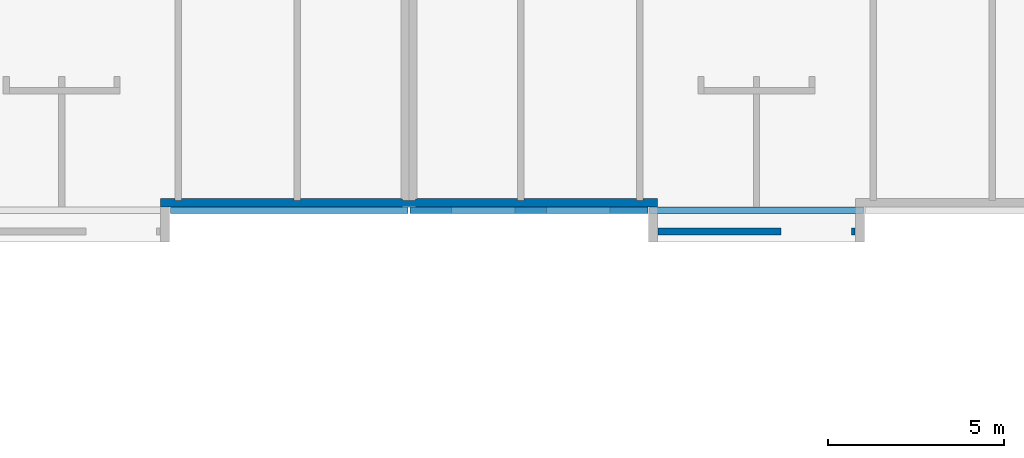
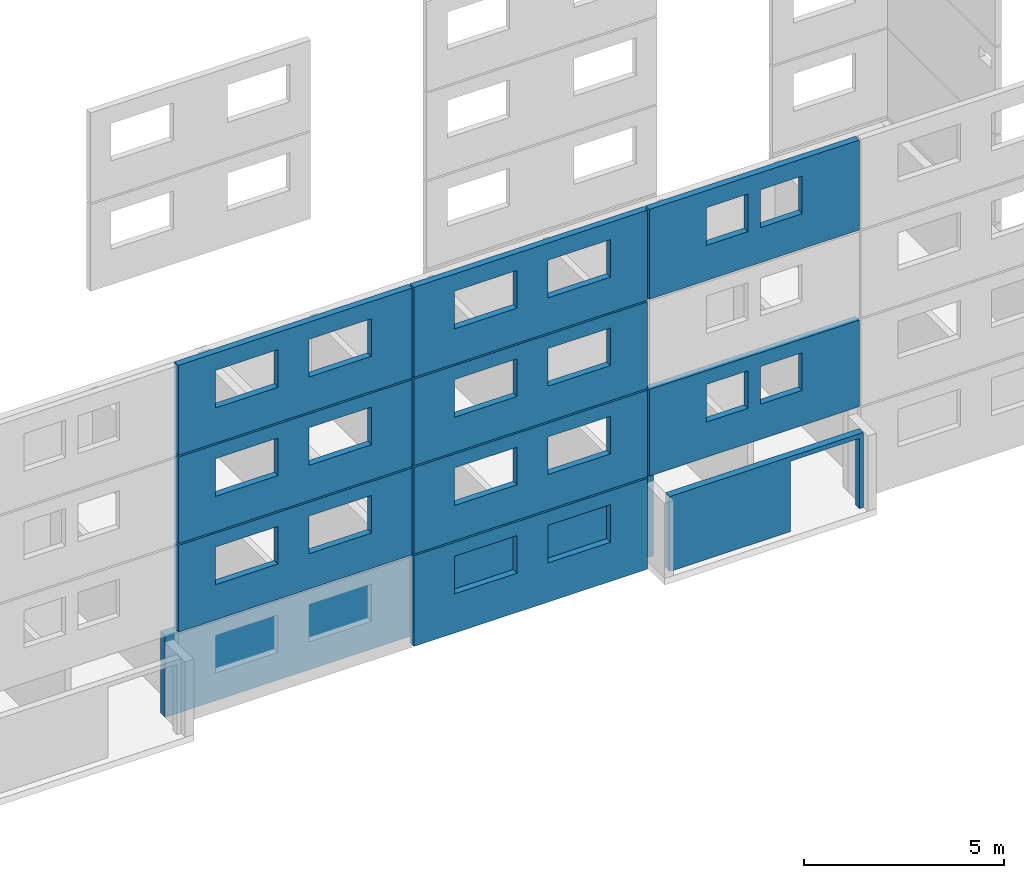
# One storey, part 9 of 15: 11 walls, 19 openings.
"""IFC2X3 building model written with IfcOpenShell, lengths in metres."""

from ifc_helpers import new_model, si_unit, frame, origin, place, context, project, spatial, faceted_brep, element, save


model = new_model("IFC2X3")

# Units and contexts
model_context = context("Model", 3, precision=1e-06, world=origin())
ifc_project = project(units=[si_unit("LENGTHUNIT", "METRE"), si_unit("PLANEANGLEUNIT", "RADIAN")], contexts=[model_context])

# Site, building, storey
site = spatial("IfcSite", under=ifc_project, CompositionType="ELEMENT")
building = spatial("IfcBuilding", under=site, CompositionType="ELEMENT")
storey = spatial("IfcBuildingStorey", under=building, Name="rdc", CompositionType="ELEMENT", Elevation=0.0)

# Wall
placement = place(None, origin())
wall_1_placement = place(placement, frame((12.795000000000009, 0.02016279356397, 0.0), z_axis=(0.0, 0.0, 1.0), x_axis=(1.0, 0.0, 0.0)))
element("IfcWall", 1, at=wall_1_placement, inside=storey, context=model_context, shape_type="Brep", body=[
    faceted_brep([(10.13499999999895, 0.179914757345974, 2.5), (10.314999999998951, 0.179914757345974, 2.5), (10.314999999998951, 0.179914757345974, 0.0), (10.13499999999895, 0.179914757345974, 0.0), (10.314999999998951, 0.179914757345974, 2.5), (10.314999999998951, 0.23, 2.5), (10.314999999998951, 0.23, 0.0), (10.314999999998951, 0.179914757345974, 0.0), (10.314999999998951, 0.23, 2.5), (13.5150000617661, 0.23, 2.5), (13.5150000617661, 0.23, 0.0), (10.314999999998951, 0.23, 0.0), (13.5150000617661, 0.23, 2.5), (13.5150000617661, 0.179914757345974, 2.5), (13.5150000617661, 0.179914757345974, 0.0), (13.5150000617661, 0.23, 0.0), (13.5150000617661, 0.179914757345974, 2.5), (13.695000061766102, 0.179914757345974, 2.5), (13.695000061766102, 0.179914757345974, 0.0), (13.5150000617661, 0.179914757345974, 0.0), (13.695000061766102, 0.179914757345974, 2.5), (13.695000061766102, 0.23, 2.5), (13.695000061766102, 0.23, 0.0), (13.695000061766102, 0.179914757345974, 0.0), (13.695000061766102, 0.23, 2.5), (14.110000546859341, 0.23, 2.5), (14.110000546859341, 0.23, 0.0), (13.695000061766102, 0.23, 0.0), (14.110000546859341, 0.23, 2.5), (14.110000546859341, 0.0, 2.5), (14.110000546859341, 0.0, 0.0), (14.110000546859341, 0.23, 0.0), (14.110000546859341, 0.0, 2.5), (0.0, 0.0, 2.5), (0.0, 0.0, 0.0), (14.110000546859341, 0.0, 0.0), (0.0, 0.0, 2.5), (0.0, 0.23, 2.5), (0.0, 0.23, 0.0), (0.0, 0.0, 0.0), (0.0, 0.23, 2.5), (0.4149999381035, 0.23, 2.5), (0.4149999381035, 0.23, 0.0), (0.0, 0.23, 0.0), (0.4149999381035, 0.23, 2.5), (0.4149999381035, 0.179914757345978, 2.5), (0.4149999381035, 0.179914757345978, 0.0), (0.4149999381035, 0.23, 0.0), (0.4149999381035, 0.179914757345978, 2.5), (0.594999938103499, 0.179914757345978, 2.5), (0.594999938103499, 0.179914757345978, 0.0), (0.4149999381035, 0.179914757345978, 0.0), (0.594999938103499, 0.179914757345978, 2.5), (0.594999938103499, 0.23, 2.5), (0.594999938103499, 0.23, 0.0), (0.594999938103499, 0.179914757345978, 0.0), (0.594999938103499, 0.23, 2.5), (3.795000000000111, 0.23, 2.5), (3.795000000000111, 0.23, 0.0), (0.594999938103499, 0.23, 0.0), (3.795000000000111, 0.23, 2.5), (3.795000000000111, 0.179914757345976, 2.5), (3.795000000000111, 0.179914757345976, 0.0), (3.795000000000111, 0.23, 0.0), (3.795000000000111, 0.179914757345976, 2.5), (3.975000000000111, 0.179914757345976, 2.5), (3.975000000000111, 0.179914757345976, 0.0), (3.795000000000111, 0.179914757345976, 0.0), (3.975000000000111, 0.179914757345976, 2.5), (3.975000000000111, 0.23, 2.5), (3.975000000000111, 0.23, 0.0), (3.975000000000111, 0.179914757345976, 0.0), (3.975000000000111, 0.23, 2.5), (6.834999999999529, 0.23, 2.5), (6.834999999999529, 0.23, 0.0), (3.975000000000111, 0.23, 0.0), (6.834999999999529, 0.23, 2.5), (6.834999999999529, 0.22, 2.5), (6.834999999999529, 0.22, 0.0), (6.834999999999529, 0.23, 0.0), (6.834999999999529, 0.22, 2.5), (6.874999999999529, 0.22, 2.5), (6.874999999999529, 0.22, 0.0), (6.834999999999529, 0.22, 0.0), (6.874999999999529, 0.22, 2.5), (6.874999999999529, 0.18, 2.5), (6.874999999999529, 0.18, 0.0), (6.874999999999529, 0.22, 0.0), (6.874999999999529, 0.18, 2.5), (7.234999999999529, 0.18, 2.5), (7.234999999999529, 0.18, 0.0), (6.874999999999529, 0.18, 0.0), (7.234999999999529, 0.18, 2.5), (7.234999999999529, 0.22, 2.5), (7.234999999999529, 0.22, 0.0), (7.234999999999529, 0.18, 0.0), (7.234999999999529, 0.22, 2.5), (7.274999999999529, 0.22, 2.5), (7.274999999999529, 0.22, 0.0), (7.234999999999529, 0.22, 0.0), (7.274999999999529, 0.22, 2.5), (7.274999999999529, 0.23, 2.5), (7.274999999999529, 0.23, 0.0), (7.274999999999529, 0.22, 0.0), (7.274999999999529, 0.23, 2.5), (10.13499999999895, 0.23, 2.5), (10.13499999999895, 0.23, 0.0), (7.274999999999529, 0.23, 0.0), (10.13499999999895, 0.23, 2.5), (10.13499999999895, 0.179914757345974, 2.5), (10.13499999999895, 0.179914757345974, 0.0), (10.13499999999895, 0.23, 0.0), (10.13499999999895, 0.179914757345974, 2.5), (10.13499999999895, 0.23, 2.5), (7.274999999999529, 0.23, 2.5), (7.274999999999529, 0.22, 2.5), (7.234999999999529, 0.22, 2.5), (7.234999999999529, 0.18, 2.5), (6.874999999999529, 0.18, 2.5), (6.874999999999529, 0.22, 2.5), (6.834999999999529, 0.22, 2.5), (6.834999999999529, 0.23, 2.5), (3.975000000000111, 0.23, 2.5), (3.975000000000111, 0.179914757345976, 2.5), (3.795000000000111, 0.179914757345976, 2.5), (3.795000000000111, 0.23, 2.5), (0.594999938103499, 0.23, 2.5), (0.594999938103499, 0.179914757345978, 2.5), (0.4149999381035, 0.179914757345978, 2.5), (0.4149999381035, 0.23, 2.5), (0.0, 0.23, 2.5), (0.0, 0.0, 2.5), (14.110000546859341, 0.0, 2.5), (14.110000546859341, 0.23, 2.5), (13.695000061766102, 0.23, 2.5), (13.695000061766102, 0.179914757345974, 2.5), (13.5150000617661, 0.179914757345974, 2.5), (13.5150000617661, 0.23, 2.5), (10.314999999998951, 0.23, 2.5), (10.314999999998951, 0.179914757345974, 2.5), (10.13499999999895, 0.179914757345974, 0.0), (10.314999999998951, 0.179914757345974, 0.0), (10.314999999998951, 0.23, 0.0), (13.5150000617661, 0.23, 0.0), (13.5150000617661, 0.179914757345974, 0.0), (13.695000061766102, 0.179914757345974, 0.0), (13.695000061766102, 0.23, 0.0), (14.110000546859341, 0.23, 0.0), (14.110000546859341, 0.0, 0.0), (0.0, 0.0, 0.0), (0.0, 0.23, 0.0), (0.4149999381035, 0.23, 0.0), (0.4149999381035, 0.179914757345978, 0.0), (0.594999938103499, 0.179914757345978, 0.0), (0.594999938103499, 0.23, 0.0), (3.795000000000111, 0.23, 0.0), (3.795000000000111, 0.179914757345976, 0.0), (3.975000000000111, 0.179914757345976, 0.0), (3.975000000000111, 0.23, 0.0), (6.834999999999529, 0.23, 0.0), (6.834999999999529, 0.22, 0.0), (6.874999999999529, 0.22, 0.0), (6.874999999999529, 0.18, 0.0), (7.234999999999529, 0.18, 0.0), (7.234999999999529, 0.22, 0.0), (7.274999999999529, 0.22, 0.0), (7.274999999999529, 0.23, 0.0), (10.13499999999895, 0.23, 0.0)], [[[0, 1, 2, 3]], [[4, 5, 6, 7]], [[8, 9, 10, 11]], [[12, 13, 14, 15]], [[16, 17, 18, 19]], [[20, 21, 22, 23]], [[24, 25, 26, 27]], [[28, 29, 30, 31]], [[32, 33, 34, 35]], [[36, 37, 38, 39]], [[40, 41, 42, 43]], [[44, 45, 46, 47]], [[48, 49, 50, 51]], [[52, 53, 54, 55]], [[56, 57, 58, 59]], [[60, 61, 62, 63]], [[64, 65, 66, 67]], [[68, 69, 70, 71]], [[72, 73, 74, 75]], [[76, 77, 78, 79]], [[80, 81, 82, 83]], [[84, 85, 86, 87]], [[88, 89, 90, 91]], [[92, 93, 94, 95]], [[96, 97, 98, 99]], [[100, 101, 102, 103]], [[104, 105, 106, 107]], [[108, 109, 110, 111]], [[112, 113, 114, 115, 116, 117, 118, 119, 120, 121, 122, 123, 124, 125, 126, 127, 128, 129, 130, 131, 132, 133, 134, 135, 136, 137, 138, 139]], [[140, 141, 142, 143, 144, 145, 146, 147, 148, 149, 150, 151, 152, 153, 154, 155, 156, 157, 158, 159, 160, 161, 162, 163, 164, 165, 166, 167]]]),
])

# Wall, openings
wall_2_placement = place(placement, frame((26.680000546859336, -0.16683720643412, 8.025000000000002), z_axis=(0.0, 0.0, 1.0), x_axis=(1.0, 0.0, 0.0)))
wall_2 = element("IfcWall", 2, at=wall_2_placement, inside=storey, Name="rdc2", context=model_context, shape_type="Brep", body=[
    faceted_brep([(0.0, 0.0, 2.75), (0.0, 0.187, 2.75), (0.0, 0.187, 0.0), (0.0, 0.0, 0.0), (0.0, 0.187, 2.75), (6.070000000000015, 0.187, 2.75), (6.070000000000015, 0.187, 0.0), (0.0, 0.187, 0.0), (6.070000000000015, 0.187, 2.75), (6.070000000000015, 0.0, 2.75), (6.070000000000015, 0.0, 0.0), (6.070000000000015, 0.187, 0.0), (6.070000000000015, 0.0, 2.75), (0.0, 0.0, 2.75), (0.0, 0.0, 0.0), (6.070000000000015, 0.0, 0.0), (0.0, 0.0, 2.75), (6.070000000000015, 0.0, 2.75), (6.070000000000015, 0.187, 2.75), (0.0, 0.187, 2.75), (0.0, 0.0, 0.0), (0.0, 0.187, 0.0), (6.070000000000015, 0.187, 0.0), (6.070000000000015, 0.0, 0.0)], [[[0, 1, 2, 3]], [[4, 5, 6, 7]], [[8, 9, 10, 11]], [[12, 13, 14, 15]], [[16, 17, 18, 19]], [[20, 21, 22, 23]]]),
])
opening_1_placement = place(placement, frame((29.90000054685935, -0.16683720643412, 9.100000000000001), z_axis=(0.0, 0.0, 1.0), x_axis=(1.0, 0.0, 0.0)))
element("IfcOpeningElement", 3, at=opening_1_placement, cuts=wall_2, Name="Opening", context=model_context, shape_type="Brep", body=[
    faceted_brep([(0.0, 0.187, 0.0), (1.2, 0.187, 0.0), (1.2, 0.0, 0.0), (0.0, 0.0, 0.0), (1.2, 0.0, 1.15), (1.2, 0.187, 1.15), (0.0, 0.187, 1.15), (0.0, 0.0, 1.15), (0.0, 0.187, 0.0), (0.0, 0.0, 0.0), (0.0, 0.0, 1.15), (0.0, 0.187, 1.15), (1.2, 0.187, 0.0), (0.0, 0.187, 0.0), (0.0, 0.187, 1.15), (1.2, 0.187, 1.15), (1.2, 0.0, 0.0), (1.2, 0.187, 0.0), (1.2, 0.187, 1.15), (1.2, 0.0, 1.15), (0.0, 0.0, 0.0), (1.2, 0.0, 0.0), (1.2, 0.0, 1.15), (0.0, 0.0, 1.15)], [[[0, 1, 2, 3]], [[4, 5, 6, 7]], [[8, 9, 10, 11]], [[12, 13, 14, 15]], [[16, 17, 18, 19]], [[20, 21, 22, 23]]]),
])
opening_2_placement = place(placement, frame((28.330000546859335, -0.16683720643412, 9.100000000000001), z_axis=(0.0, 0.0, 1.0), x_axis=(1.0, 0.0, 0.0)))
element("IfcOpeningElement", 4, at=opening_2_placement, cuts=wall_2, Name="Opening", context=model_context, shape_type="Brep", body=[
    faceted_brep([(0.0, 0.187, 0.0), (1.2, 0.187, 0.0), (1.2, 0.0, 0.0), (0.0, 0.0, 0.0), (1.2, 0.0, 1.15), (1.2, 0.187, 1.15), (0.0, 0.187, 1.15), (0.0, 0.0, 1.15), (0.0, 0.187, 0.0), (0.0, 0.0, 0.0), (0.0, 0.0, 1.15), (0.0, 0.187, 1.15), (1.2, 0.187, 0.0), (0.0, 0.187, 0.0), (0.0, 0.187, 1.15), (1.2, 0.187, 1.15), (1.2, 0.0, 0.0), (1.2, 0.187, 0.0), (1.2, 0.187, 1.15), (1.2, 0.0, 1.15), (0.0, 0.0, 0.0), (1.2, 0.0, 0.0), (1.2, 0.0, 1.15), (0.0, 0.0, 1.15)], [[[0, 1, 2, 3]], [[4, 5, 6, 7]], [[8, 9, 10, 11]], [[12, 13, 14, 15]], [[16, 17, 18, 19]], [[20, 21, 22, 23]]]),
])

wall_3_placement = place(placement, frame((13.07, -0.166837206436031, 2.625), z_axis=(0.0, 0.0, 1.0), x_axis=(1.0, 0.0, 0.0)))
wall_3 = element("IfcWall", 5, at=wall_3_placement, inside=storey, Name="rdc1", context=model_context, shape_type="Brep", body=[
    faceted_brep([(0.0, 0.0, 2.65), (0.0, 0.187, 2.65), (0.0, 0.187, 0.0), (0.0, 0.0, 0.0), (0.0, 0.187, 2.65), (6.754999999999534, 0.187, 2.65), (6.754999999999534, 0.187, 0.0), (0.0, 0.187, 0.0), (6.754999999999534, 0.187, 2.65), (6.754999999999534, 0.0, 2.65), (6.754999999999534, 0.0, 0.0), (6.754999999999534, 0.187, 0.0), (6.754999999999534, 0.0, 2.65), (0.0, 0.0, 2.65), (0.0, 0.0, 0.0), (6.754999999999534, 0.0, 0.0), (0.0, 0.0, 2.65), (6.754999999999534, 0.0, 2.65), (6.754999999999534, 0.187, 2.65), (0.0, 0.187, 2.65), (0.0, 0.0, 0.0), (0.0, 0.187, 0.0), (6.754999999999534, 0.187, 0.0), (6.754999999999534, 0.0, 0.0)], [[[0, 1, 2, 3]], [[4, 5, 6, 7]], [[8, 9, 10, 11]], [[12, 13, 14, 15]], [[16, 17, 18, 19]], [[20, 21, 22, 23]]]),
])
opening_3_placement = place(placement, frame((14.144999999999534, -0.166837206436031, 3.7), z_axis=(0.0, 0.0, 1.0), x_axis=(1.0, 0.0, 0.0)))
element("IfcOpeningElement", 6, at=opening_3_placement, cuts=wall_3, Name="Opening", context=model_context, shape_type="Brep", body=[
    faceted_brep([(0.0, 0.187, 0.0), (1.8, 0.187, 0.0), (1.8, 0.0, 0.0), (0.0, 0.0, 0.0), (1.8, 0.0, 1.15), (1.8, 0.187, 1.15), (0.0, 0.187, 1.15), (0.0, 0.0, 1.15), (0.0, 0.187, 0.0), (0.0, 0.0, 0.0), (0.0, 0.0, 1.15), (0.0, 0.187, 1.15), (1.8, 0.187, 0.0), (0.0, 0.187, 0.0), (0.0, 0.187, 1.15), (1.8, 0.187, 1.15), (1.8, 0.0, 0.0), (1.8, 0.187, 0.0), (1.8, 0.187, 1.15), (1.8, 0.0, 1.15), (0.0, 0.0, 0.0), (1.8, 0.0, 0.0), (1.8, 0.0, 1.15), (0.0, 0.0, 1.15)], [[[0, 1, 2, 3]], [[4, 5, 6, 7]], [[8, 9, 10, 11]], [[12, 13, 14, 15]], [[16, 17, 18, 19]], [[20, 21, 22, 23]]]),
])
opening_4_placement = place(placement, frame((16.844999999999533, -0.166837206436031, 3.7), z_axis=(0.0, 0.0, 1.0), x_axis=(1.0, 0.0, 0.0)))
element("IfcOpeningElement", 7, at=opening_4_placement, cuts=wall_3, Name="Opening", context=model_context, shape_type="Brep", body=[
    faceted_brep([(0.0, 0.187, 0.0), (1.8, 0.187, 0.0), (1.8, 0.0, 0.0), (0.0, 0.0, 0.0), (1.8, 0.0, 1.15), (1.8, 0.187, 1.15), (0.0, 0.187, 1.15), (0.0, 0.0, 1.15), (0.0, 0.187, 0.0), (0.0, 0.0, 0.0), (0.0, 0.0, 1.15), (0.0, 0.187, 1.15), (1.8, 0.187, 0.0), (0.0, 0.187, 0.0), (0.0, 0.187, 1.15), (1.8, 0.187, 1.15), (1.8, 0.0, 0.0), (1.8, 0.187, 0.0), (1.8, 0.187, 1.15), (1.8, 0.0, 1.15), (0.0, 0.0, 0.0), (1.8, 0.0, 0.0), (1.8, 0.0, 1.15), (0.0, 0.0, 1.15)], [[[0, 1, 2, 3]], [[4, 5, 6, 7]], [[8, 9, 10, 11]], [[12, 13, 14, 15]], [[16, 17, 18, 19]], [[20, 21, 22, 23]]]),
])

wall_4_placement = place(placement, frame((19.87499999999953, -0.16683720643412, -0.199999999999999), z_axis=(0.0, 0.0, 1.0), x_axis=(1.0, 0.0, 0.0)))
wall_4 = element("IfcWall", 8, at=wall_4_placement, inside=storey, Name="rdc3", context=model_context, shape_type="Brep", body=[
    faceted_brep([(0.0, 0.0, 2.775), (0.0, 0.187, 2.775), (0.0, 0.187, 0.0), (0.0, 0.0, 0.0), (0.0, 0.187, 2.775), (6.755000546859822, 0.187, 2.775), (6.755000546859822, 0.187, 0.0), (0.0, 0.187, 0.0), (6.755000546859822, 0.187, 2.775), (6.755000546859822, 0.0, 2.775), (6.755000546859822, 0.0, 0.0), (6.755000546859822, 0.187, 0.0), (6.755000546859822, 0.0, 2.775), (0.0, 0.0, 2.775), (0.0, 0.0, 0.0), (6.755000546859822, 0.0, 0.0), (0.0, 0.0, 2.775), (6.755000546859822, 0.0, 2.775), (6.755000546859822, 0.187, 2.775), (0.0, 0.187, 2.775), (0.0, 0.0, 0.0), (0.0, 0.187, 0.0), (6.755000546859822, 0.187, 0.0), (6.755000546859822, 0.0, 0.0)], [[[0, 1, 2, 3]], [[4, 5, 6, 7]], [[8, 9, 10, 11]], [[12, 13, 14, 15]], [[16, 17, 18, 19]], [[20, 21, 22, 23]]]),
])
opening_5_placement = place(placement, frame((23.75499999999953, -0.16683720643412, 1.0), z_axis=(0.0, 0.0, 1.0), x_axis=(1.0, 0.0, 0.0)))
element("IfcOpeningElement", 9, at=opening_5_placement, cuts=wall_4, Name="Opening", context=model_context, shape_type="Brep", body=[
    faceted_brep([(0.0, 0.187, 0.0), (1.8, 0.187, 0.0), (1.8, 0.0, 0.0), (0.0, 0.0, 0.0), (1.8, 0.0, 1.15), (1.8, 0.187, 1.15), (0.0, 0.187, 1.15), (0.0, 0.0, 1.15), (0.0, 0.187, 0.0), (0.0, 0.0, 0.0), (0.0, 0.0, 1.15), (0.0, 0.187, 1.15), (1.8, 0.187, 0.0), (0.0, 0.187, 0.0), (0.0, 0.187, 1.15), (1.8, 0.187, 1.15), (1.8, 0.0, 0.0), (1.8, 0.187, 0.0), (1.8, 0.187, 1.15), (1.8, 0.0, 1.15), (0.0, 0.0, 0.0), (1.8, 0.0, 0.0), (1.8, 0.0, 1.15), (0.0, 0.0, 1.15)], [[[0, 1, 2, 3]], [[4, 5, 6, 7]], [[8, 9, 10, 11]], [[12, 13, 14, 15]], [[16, 17, 18, 19]], [[20, 21, 22, 23]]]),
])
opening_6_placement = place(placement, frame((21.05499999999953, -0.16683720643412, 1.0), z_axis=(0.0, 0.0, 1.0), x_axis=(1.0, 0.0, 0.0)))
element("IfcOpeningElement", 10, at=opening_6_placement, cuts=wall_4, Name="Opening", context=model_context, shape_type="Brep", body=[
    faceted_brep([(0.0, 0.187, 0.0), (1.8, 0.187, 0.0), (1.8, 0.0, 0.0), (0.0, 0.0, 0.0), (1.8, 0.0, 1.15), (1.8, 0.187, 1.15), (0.0, 0.187, 1.15), (0.0, 0.0, 1.15), (0.0, 0.187, 0.0), (0.0, 0.0, 0.0), (0.0, 0.0, 1.15), (0.0, 0.187, 1.15), (1.8, 0.187, 0.0), (0.0, 0.187, 0.0), (0.0, 0.187, 1.15), (1.8, 0.187, 1.15), (1.8, 0.0, 0.0), (1.8, 0.187, 0.0), (1.8, 0.187, 1.15), (1.8, 0.0, 1.15), (0.0, 0.0, 0.0), (1.8, 0.0, 0.0), (1.8, 0.0, 1.15), (0.0, 0.0, 1.15)], [[[0, 1, 2, 3]], [[4, 5, 6, 7]], [[8, 9, 10, 11]], [[12, 13, 14, 15]], [[16, 17, 18, 19]], [[20, 21, 22, 23]]]),
])

wall_5_placement = place(placement, frame((19.87499999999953, -0.16683720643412, 2.625000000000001), z_axis=(0.0, 0.0, 1.0), x_axis=(1.0, 0.0, 0.0)))
wall_5 = element("IfcWall", 11, at=wall_5_placement, inside=storey, context=model_context, shape_type="Brep", body=[
    faceted_brep([(0.0, 0.0, 2.65), (0.0, 0.187, 2.65), (0.0, 0.187, 0.0), (0.0, 0.0, 0.0), (0.0, 0.187, 2.65), (6.755000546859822, 0.187, 2.65), (6.755000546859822, 0.187, 0.0), (0.0, 0.187, 0.0), (6.755000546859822, 0.187, 2.65), (6.755000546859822, 0.0, 2.65), (6.755000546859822, 0.0, 0.0), (6.755000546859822, 0.187, 0.0), (6.755000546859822, 0.0, 2.65), (0.0, 0.0, 2.65), (0.0, 0.0, 0.0), (6.755000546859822, 0.0, 0.0), (0.0, 0.0, 2.65), (6.755000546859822, 0.0, 2.65), (6.755000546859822, 0.187, 2.65), (0.0, 0.187, 2.65), (0.0, 0.0, 0.0), (0.0, 0.187, 0.0), (6.755000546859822, 0.187, 0.0), (6.755000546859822, 0.0, 0.0)], [[[0, 1, 2, 3]], [[4, 5, 6, 7]], [[8, 9, 10, 11]], [[12, 13, 14, 15]], [[16, 17, 18, 19]], [[20, 21, 22, 23]]]),
])
opening_7_placement = place(placement, frame((23.75499999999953, -0.16683720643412, 3.700000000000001), z_axis=(0.0, 0.0, 1.0), x_axis=(1.0, 0.0, 0.0)))
element("IfcOpeningElement", 12, at=opening_7_placement, cuts=wall_5, Name="Opening", context=model_context, shape_type="Brep", body=[
    faceted_brep([(0.0, 0.187, 0.0), (1.8, 0.187, 0.0), (1.8, 0.0, 0.0), (0.0, 0.0, 0.0), (1.8, 0.0, 1.15), (1.8, 0.187, 1.15), (0.0, 0.187, 1.15), (0.0, 0.0, 1.15), (0.0, 0.187, 0.0), (0.0, 0.0, 0.0), (0.0, 0.0, 1.15), (0.0, 0.187, 1.15), (1.8, 0.187, 0.0), (0.0, 0.187, 0.0), (0.0, 0.187, 1.15), (1.8, 0.187, 1.15), (1.8, 0.0, 0.0), (1.8, 0.187, 0.0), (1.8, 0.187, 1.15), (1.8, 0.0, 1.15), (0.0, 0.0, 0.0), (1.8, 0.0, 0.0), (1.8, 0.0, 1.15), (0.0, 0.0, 1.15)], [[[0, 1, 2, 3]], [[4, 5, 6, 7]], [[8, 9, 10, 11]], [[12, 13, 14, 15]], [[16, 17, 18, 19]], [[20, 21, 22, 23]]]),
])
opening_8_placement = place(placement, frame((21.05499999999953, -0.16683720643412, 3.700000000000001), z_axis=(0.0, 0.0, 1.0), x_axis=(1.0, 0.0, 0.0)))
element("IfcOpeningElement", 13, at=opening_8_placement, cuts=wall_5, Name="Opening", context=model_context, shape_type="Brep", body=[
    faceted_brep([(0.0, 0.187, 0.0), (1.8, 0.187, 0.0), (1.8, 0.0, 0.0), (0.0, 0.0, 0.0), (1.8, 0.0, 1.15), (1.8, 0.187, 1.15), (0.0, 0.187, 1.15), (0.0, 0.0, 1.15), (0.0, 0.187, 0.0), (0.0, 0.0, 0.0), (0.0, 0.0, 1.15), (0.0, 0.187, 1.15), (1.8, 0.187, 0.0), (0.0, 0.187, 0.0), (0.0, 0.187, 1.15), (1.8, 0.187, 1.15), (1.8, 0.0, 0.0), (1.8, 0.187, 0.0), (1.8, 0.187, 1.15), (1.8, 0.0, 1.15), (0.0, 0.0, 0.0), (1.8, 0.0, 0.0), (1.8, 0.0, 1.15), (0.0, 0.0, 1.15)], [[[0, 1, 2, 3]], [[4, 5, 6, 7]], [[8, 9, 10, 11]], [[12, 13, 14, 15]], [[16, 17, 18, 19]], [[20, 21, 22, 23]]]),
])

wall_6_placement = place(placement, frame((13.07, -0.166837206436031, 5.325000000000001), z_axis=(0.0, 0.0, 1.0), x_axis=(1.0, 0.0, 0.0)))
wall_6 = element("IfcWall", 14, at=wall_6_placement, inside=storey, Name="rdc1", context=model_context, shape_type="Brep", body=[
    faceted_brep([(0.0, 0.0, 2.65), (0.0, 0.187, 2.65), (0.0, 0.187, 0.0), (0.0, 0.0, 0.0), (0.0, 0.187, 2.65), (6.754999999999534, 0.187, 2.65), (6.754999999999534, 0.187, 0.0), (0.0, 0.187, 0.0), (6.754999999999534, 0.187, 2.65), (6.754999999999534, 0.0, 2.65), (6.754999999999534, 0.0, 0.0), (6.754999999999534, 0.187, 0.0), (6.754999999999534, 0.0, 2.65), (0.0, 0.0, 2.65), (0.0, 0.0, 0.0), (6.754999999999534, 0.0, 0.0), (0.0, 0.0, 2.65), (6.754999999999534, 0.0, 2.65), (6.754999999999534, 0.187, 2.65), (0.0, 0.187, 2.65), (0.0, 0.0, 0.0), (0.0, 0.187, 0.0), (6.754999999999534, 0.187, 0.0), (6.754999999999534, 0.0, 0.0)], [[[0, 1, 2, 3]], [[4, 5, 6, 7]], [[8, 9, 10, 11]], [[12, 13, 14, 15]], [[16, 17, 18, 19]], [[20, 21, 22, 23]]]),
])
opening_9_placement = place(placement, frame((14.144999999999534, -0.166837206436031, 6.4), z_axis=(0.0, 0.0, 1.0), x_axis=(1.0, 0.0, 0.0)))
element("IfcOpeningElement", 15, at=opening_9_placement, cuts=wall_6, Name="Opening", context=model_context, shape_type="Brep", body=[
    faceted_brep([(0.0, 0.187, 0.0), (1.8, 0.187, 0.0), (1.8, 0.0, 0.0), (0.0, 0.0, 0.0), (1.8, 0.0, 1.15), (1.8, 0.187, 1.15), (0.0, 0.187, 1.15), (0.0, 0.0, 1.15), (0.0, 0.187, 0.0), (0.0, 0.0, 0.0), (0.0, 0.0, 1.15), (0.0, 0.187, 1.15), (1.8, 0.187, 0.0), (0.0, 0.187, 0.0), (0.0, 0.187, 1.15), (1.8, 0.187, 1.15), (1.8, 0.0, 0.0), (1.8, 0.187, 0.0), (1.8, 0.187, 1.15), (1.8, 0.0, 1.15), (0.0, 0.0, 0.0), (1.8, 0.0, 0.0), (1.8, 0.0, 1.15), (0.0, 0.0, 1.15)], [[[0, 1, 2, 3]], [[4, 5, 6, 7]], [[8, 9, 10, 11]], [[12, 13, 14, 15]], [[16, 17, 18, 19]], [[20, 21, 22, 23]]]),
])
opening_10_placement = place(placement, frame((16.844999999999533, -0.166837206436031, 6.4), z_axis=(0.0, 0.0, 1.0), x_axis=(1.0, 0.0, 0.0)))
element("IfcOpeningElement", 16, at=opening_10_placement, cuts=wall_6, Name="Opening", context=model_context, shape_type="Brep", body=[
    faceted_brep([(0.0, 0.187, 0.0), (1.8, 0.187, 0.0), (1.8, 0.0, 0.0), (0.0, 0.0, 0.0), (1.8, 0.0, 1.15), (1.8, 0.187, 1.15), (0.0, 0.187, 1.15), (0.0, 0.0, 1.15), (0.0, 0.187, 0.0), (0.0, 0.0, 0.0), (0.0, 0.0, 1.15), (0.0, 0.187, 1.15), (1.8, 0.187, 0.0), (0.0, 0.187, 0.0), (0.0, 0.187, 1.15), (1.8, 0.187, 1.15), (1.8, 0.0, 0.0), (1.8, 0.187, 0.0), (1.8, 0.187, 1.15), (1.8, 0.0, 1.15), (0.0, 0.0, 0.0), (1.8, 0.0, 0.0), (1.8, 0.0, 1.15), (0.0, 0.0, 1.15)], [[[0, 1, 2, 3]], [[4, 5, 6, 7]], [[8, 9, 10, 11]], [[12, 13, 14, 15]], [[16, 17, 18, 19]], [[20, 21, 22, 23]]]),
])

wall_7_placement = place(placement, frame((26.680000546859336, -0.16683720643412, 2.625000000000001), z_axis=(0.0, 0.0, 1.0), x_axis=(1.0, 0.0, 0.0)))
wall_7 = element("IfcWall", 17, at=wall_7_placement, inside=storey, Name="rdc2", context=model_context, shape_type="Brep", body=[
    faceted_brep([(0.0, 0.0, 2.65), (0.0, 0.187, 2.65), (0.0, 0.187, 0.0), (0.0, 0.0, 0.0), (0.0, 0.187, 2.65), (6.070000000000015, 0.187, 2.65), (6.070000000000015, 0.187, 0.0), (0.0, 0.187, 0.0), (6.070000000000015, 0.187, 2.65), (6.070000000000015, 0.0, 2.65), (6.070000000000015, 0.0, 0.0), (6.070000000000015, 0.187, 0.0), (6.070000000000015, 0.0, 2.65), (0.0, 0.0, 2.65), (0.0, 0.0, 0.0), (6.070000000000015, 0.0, 0.0), (0.0, 0.0, 2.65), (6.070000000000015, 0.0, 2.65), (6.070000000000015, 0.187, 2.65), (0.0, 0.187, 2.65), (0.0, 0.0, 0.0), (0.0, 0.187, 0.0), (6.070000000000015, 0.187, 0.0), (6.070000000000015, 0.0, 0.0)], [[[0, 1, 2, 3]], [[4, 5, 6, 7]], [[8, 9, 10, 11]], [[12, 13, 14, 15]], [[16, 17, 18, 19]], [[20, 21, 22, 23]]]),
])
opening_11_placement = place(placement, frame((28.330000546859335, -0.16683720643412, 3.700000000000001), z_axis=(0.0, 0.0, 1.0), x_axis=(1.0, 0.0, 0.0)))
element("IfcOpeningElement", 18, at=opening_11_placement, cuts=wall_7, Name="Opening", context=model_context, shape_type="Brep", body=[
    faceted_brep([(0.0, 0.187, 0.0), (1.2, 0.187, 0.0), (1.2, 0.0, 0.0), (0.0, 0.0, 0.0), (1.2, 0.0, 1.15), (1.2, 0.187, 1.15), (0.0, 0.187, 1.15), (0.0, 0.0, 1.15), (0.0, 0.187, 0.0), (0.0, 0.0, 0.0), (0.0, 0.0, 1.15), (0.0, 0.187, 1.15), (1.2, 0.187, 0.0), (0.0, 0.187, 0.0), (0.0, 0.187, 1.15), (1.2, 0.187, 1.15), (1.2, 0.0, 0.0), (1.2, 0.187, 0.0), (1.2, 0.187, 1.15), (1.2, 0.0, 1.15), (0.0, 0.0, 0.0), (1.2, 0.0, 0.0), (1.2, 0.0, 1.15), (0.0, 0.0, 1.15)], [[[0, 1, 2, 3]], [[4, 5, 6, 7]], [[8, 9, 10, 11]], [[12, 13, 14, 15]], [[16, 17, 18, 19]], [[20, 21, 22, 23]]]),
])
opening_12_placement = place(placement, frame((29.90000054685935, -0.16683720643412, 3.700000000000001), z_axis=(0.0, 0.0, 1.0), x_axis=(1.0, 0.0, 0.0)))
element("IfcOpeningElement", 19, at=opening_12_placement, cuts=wall_7, Name="Opening", context=model_context, shape_type="Brep", body=[
    faceted_brep([(0.0, 0.187, 0.0), (1.2, 0.187, 0.0), (1.2, 0.0, 0.0), (0.0, 0.0, 0.0), (1.2, 0.0, 1.15), (1.2, 0.187, 1.15), (0.0, 0.187, 1.15), (0.0, 0.0, 1.15), (0.0, 0.187, 0.0), (0.0, 0.0, 0.0), (0.0, 0.0, 1.15), (0.0, 0.187, 1.15), (1.2, 0.187, 0.0), (0.0, 0.187, 0.0), (0.0, 0.187, 1.15), (1.2, 0.187, 1.15), (1.2, 0.0, 0.0), (1.2, 0.187, 0.0), (1.2, 0.187, 1.15), (1.2, 0.0, 1.15), (0.0, 0.0, 0.0), (1.2, 0.0, 0.0), (1.2, 0.0, 1.15), (0.0, 0.0, 1.15)], [[[0, 1, 2, 3]], [[4, 5, 6, 7]], [[8, 9, 10, 11]], [[12, 13, 14, 15]], [[16, 17, 18, 19]], [[20, 21, 22, 23]]]),
])

# Wall, opening
wall_8_placement = place(placement, frame((26.91500054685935, -0.779836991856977, 0.0), z_axis=(0.0, 0.0, 1.0), x_axis=(1.0, 0.0, 0.0)))
wall_8 = element("IfcWall", 20, at=wall_8_placement, inside=storey, Name="rdc entrée", context=model_context, shape_type="Brep", body=[
    faceted_brep([(0.0, 0.0, 2.290000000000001), (0.0, 0.2, 2.290000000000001), (0.0, 0.2, 0.0), (0.0, 0.0, 0.0), (0.0, 0.2, 2.290000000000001), (5.600000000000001, 0.2, 2.290000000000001), (5.600000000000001, 0.2, 0.0), (0.0, 0.2, 0.0), (5.600000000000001, 0.2, 2.290000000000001), (5.600000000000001, 0.0, 2.290000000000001), (5.600000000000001, 0.0, 0.0), (5.600000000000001, 0.2, 0.0), (5.600000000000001, 0.0, 2.290000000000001), (0.0, 0.0, 2.290000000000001), (0.0, 0.0, 0.0), (5.600000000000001, 0.0, 0.0), (0.0, 0.0, 2.290000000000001), (5.600000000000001, 0.0, 2.290000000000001), (5.600000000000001, 0.2, 2.290000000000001), (0.0, 0.2, 2.290000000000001), (0.0, 0.0, 0.0), (0.0, 0.2, 0.0), (5.600000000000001, 0.2, 0.0), (5.600000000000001, 0.0, 0.0)], [[[0, 1, 2, 3]], [[4, 5, 6, 7]], [[8, 9, 10, 11]], [[12, 13, 14, 15]], [[16, 17, 18, 19]], [[20, 21, 22, 23]]]),
])
opening_13_placement = place(placement, frame((30.405000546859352, -0.779836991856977, 0.0), z_axis=(0.0, 0.0, 1.0), x_axis=(1.0, 0.0, 0.0)))
element("IfcOpeningElement", 21, at=opening_13_placement, cuts=wall_8, Name="Opening", context=model_context, shape_type="Brep", body=[
    faceted_brep([(0.0, 0.2, 0.0), (2.0, 0.2, 0.0), (2.0, 0.0, 0.0), (0.0, 0.0, 0.0), (2.0, 0.0, 2.15), (2.0, 0.2, 2.15), (0.0, 0.2, 2.15), (0.0, 0.0, 2.15), (0.0, 0.2, 0.0), (0.0, 0.0, 0.0), (0.0, 0.0, 2.15), (0.0, 0.2, 2.15), (2.0, 0.2, 0.0), (0.0, 0.2, 0.0), (0.0, 0.2, 2.15), (2.0, 0.2, 2.15), (2.0, 0.0, 0.0), (2.0, 0.2, 0.0), (2.0, 0.2, 2.15), (2.0, 0.0, 2.15), (0.0, 0.0, 0.0), (2.0, 0.0, 0.0), (2.0, 0.0, 2.15), (0.0, 0.0, 2.15)], [[[0, 1, 2, 3]], [[4, 5, 6, 7]], [[8, 9, 10, 11]], [[12, 13, 14, 15]], [[16, 17, 18, 19]], [[20, 21, 22, 23]]]),
])

# Wall, openings
wall_9_placement = place(placement, frame((19.87499999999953, -0.16683720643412, 5.325000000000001), z_axis=(0.0, 0.0, 1.0), x_axis=(1.0, 0.0, 0.0)))
wall_9 = element("IfcWall", 22, at=wall_9_placement, inside=storey, context=model_context, shape_type="Brep", body=[
    faceted_brep([(0.0, 0.0, 2.65), (0.0, 0.187, 2.65), (0.0, 0.187, 0.0), (0.0, 0.0, 0.0), (0.0, 0.187, 2.65), (6.755000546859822, 0.187, 2.65), (6.755000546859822, 0.187, 0.0), (0.0, 0.187, 0.0), (6.755000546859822, 0.187, 2.65), (6.755000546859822, 0.0, 2.65), (6.755000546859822, 0.0, 0.0), (6.755000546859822, 0.187, 0.0), (6.755000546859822, 0.0, 2.65), (0.0, 0.0, 2.65), (0.0, 0.0, 0.0), (6.755000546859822, 0.0, 0.0), (0.0, 0.0, 2.65), (6.755000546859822, 0.0, 2.65), (6.755000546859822, 0.187, 2.65), (0.0, 0.187, 2.65), (0.0, 0.0, 0.0), (0.0, 0.187, 0.0), (6.755000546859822, 0.187, 0.0), (6.755000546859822, 0.0, 0.0)], [[[0, 1, 2, 3]], [[4, 5, 6, 7]], [[8, 9, 10, 11]], [[12, 13, 14, 15]], [[16, 17, 18, 19]], [[20, 21, 22, 23]]]),
])
opening_14_placement = place(placement, frame((23.75499999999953, -0.16683720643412, 6.400000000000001), z_axis=(0.0, 0.0, 1.0), x_axis=(1.0, 0.0, 0.0)))
element("IfcOpeningElement", 23, at=opening_14_placement, cuts=wall_9, Name="Opening", context=model_context, shape_type="Brep", body=[
    faceted_brep([(0.0, 0.187, 0.0), (1.8, 0.187, 0.0), (1.8, 0.0, 0.0), (0.0, 0.0, 0.0), (1.8, 0.0, 1.15), (1.8, 0.187, 1.15), (0.0, 0.187, 1.15), (0.0, 0.0, 1.15), (0.0, 0.187, 0.0), (0.0, 0.0, 0.0), (0.0, 0.0, 1.15), (0.0, 0.187, 1.15), (1.8, 0.187, 0.0), (0.0, 0.187, 0.0), (0.0, 0.187, 1.15), (1.8, 0.187, 1.15), (1.8, 0.0, 0.0), (1.8, 0.187, 0.0), (1.8, 0.187, 1.15), (1.8, 0.0, 1.15), (0.0, 0.0, 0.0), (1.8, 0.0, 0.0), (1.8, 0.0, 1.15), (0.0, 0.0, 1.15)], [[[0, 1, 2, 3]], [[4, 5, 6, 7]], [[8, 9, 10, 11]], [[12, 13, 14, 15]], [[16, 17, 18, 19]], [[20, 21, 22, 23]]]),
])
opening_15_placement = place(placement, frame((21.05499999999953, -0.16683720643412, 6.400000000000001), z_axis=(0.0, 0.0, 1.0), x_axis=(1.0, 0.0, 0.0)))
element("IfcOpeningElement", 24, at=opening_15_placement, cuts=wall_9, Name="Opening", context=model_context, shape_type="Brep", body=[
    faceted_brep([(0.0, 0.187, 0.0), (1.8, 0.187, 0.0), (1.8, 0.0, 0.0), (0.0, 0.0, 0.0), (1.8, 0.0, 1.15), (1.8, 0.187, 1.15), (0.0, 0.187, 1.15), (0.0, 0.0, 1.15), (0.0, 0.187, 0.0), (0.0, 0.0, 0.0), (0.0, 0.0, 1.15), (0.0, 0.187, 1.15), (1.8, 0.187, 0.0), (0.0, 0.187, 0.0), (0.0, 0.187, 1.15), (1.8, 0.187, 1.15), (1.8, 0.0, 0.0), (1.8, 0.187, 0.0), (1.8, 0.187, 1.15), (1.8, 0.0, 1.15), (0.0, 0.0, 0.0), (1.8, 0.0, 0.0), (1.8, 0.0, 1.15), (0.0, 0.0, 1.15)], [[[0, 1, 2, 3]], [[4, 5, 6, 7]], [[8, 9, 10, 11]], [[12, 13, 14, 15]], [[16, 17, 18, 19]], [[20, 21, 22, 23]]]),
])

wall_10_placement = place(placement, frame((19.87499999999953, -0.16683720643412, 8.025000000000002), z_axis=(0.0, 0.0, 1.0), x_axis=(1.0, 0.0, 0.0)))
wall_10 = element("IfcWall", 25, at=wall_10_placement, inside=storey, context=model_context, shape_type="Brep", body=[
    faceted_brep([(0.0, 0.0, 2.75), (0.0, 0.187, 2.75), (0.0, 0.187, 0.0), (0.0, 0.0, 0.0), (0.0, 0.187, 2.75), (6.755000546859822, 0.187, 2.75), (6.755000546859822, 0.187, 0.0), (0.0, 0.187, 0.0), (6.755000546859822, 0.187, 2.75), (6.755000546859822, 0.0, 2.75), (6.755000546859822, 0.0, 0.0), (6.755000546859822, 0.187, 0.0), (6.755000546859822, 0.0, 2.75), (0.0, 0.0, 2.75), (0.0, 0.0, 0.0), (6.755000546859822, 0.0, 0.0), (0.0, 0.0, 2.75), (6.755000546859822, 0.0, 2.75), (6.755000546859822, 0.187, 2.75), (0.0, 0.187, 2.75), (0.0, 0.0, 0.0), (0.0, 0.187, 0.0), (6.755000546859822, 0.187, 0.0), (6.755000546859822, 0.0, 0.0)], [[[0, 1, 2, 3]], [[4, 5, 6, 7]], [[8, 9, 10, 11]], [[12, 13, 14, 15]], [[16, 17, 18, 19]], [[20, 21, 22, 23]]]),
])
opening_16_placement = place(placement, frame((23.75499999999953, -0.16683720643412, 9.100000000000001), z_axis=(0.0, 0.0, 1.0), x_axis=(1.0, 0.0, 0.0)))
element("IfcOpeningElement", 26, at=opening_16_placement, cuts=wall_10, Name="Opening", context=model_context, shape_type="Brep", body=[
    faceted_brep([(0.0, 0.187, 0.0), (1.8, 0.187, 0.0), (1.8, 0.0, 0.0), (0.0, 0.0, 0.0), (1.8, 0.0, 1.15), (1.8, 0.187, 1.15), (0.0, 0.187, 1.15), (0.0, 0.0, 1.15), (0.0, 0.187, 0.0), (0.0, 0.0, 0.0), (0.0, 0.0, 1.15), (0.0, 0.187, 1.15), (1.8, 0.187, 0.0), (0.0, 0.187, 0.0), (0.0, 0.187, 1.15), (1.8, 0.187, 1.15), (1.8, 0.0, 0.0), (1.8, 0.187, 0.0), (1.8, 0.187, 1.15), (1.8, 0.0, 1.15), (0.0, 0.0, 0.0), (1.8, 0.0, 0.0), (1.8, 0.0, 1.15), (0.0, 0.0, 1.15)], [[[0, 1, 2, 3]], [[4, 5, 6, 7]], [[8, 9, 10, 11]], [[12, 13, 14, 15]], [[16, 17, 18, 19]], [[20, 21, 22, 23]]]),
])
opening_17_placement = place(placement, frame((21.05499999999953, -0.16683720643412, 9.100000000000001), z_axis=(0.0, 0.0, 1.0), x_axis=(1.0, 0.0, 0.0)))
element("IfcOpeningElement", 27, at=opening_17_placement, cuts=wall_10, Name="Opening", context=model_context, shape_type="Brep", body=[
    faceted_brep([(0.0, 0.187, 0.0), (1.8, 0.187, 0.0), (1.8, 0.0, 0.0), (0.0, 0.0, 0.0), (1.8, 0.0, 1.15), (1.8, 0.187, 1.15), (0.0, 0.187, 1.15), (0.0, 0.0, 1.15), (0.0, 0.187, 0.0), (0.0, 0.0, 0.0), (0.0, 0.0, 1.15), (0.0, 0.187, 1.15), (1.8, 0.187, 0.0), (0.0, 0.187, 0.0), (0.0, 0.187, 1.15), (1.8, 0.187, 1.15), (1.8, 0.0, 0.0), (1.8, 0.187, 0.0), (1.8, 0.187, 1.15), (1.8, 0.0, 1.15), (0.0, 0.0, 0.0), (1.8, 0.0, 0.0), (1.8, 0.0, 1.15), (0.0, 0.0, 1.15)], [[[0, 1, 2, 3]], [[4, 5, 6, 7]], [[8, 9, 10, 11]], [[12, 13, 14, 15]], [[16, 17, 18, 19]], [[20, 21, 22, 23]]]),
])

wall_11_placement = place(placement, frame((13.07, -0.166837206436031, 8.025000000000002), z_axis=(0.0, 0.0, 1.0), x_axis=(1.0, 0.0, 0.0)))
wall_11 = element("IfcWall", 28, at=wall_11_placement, inside=storey, Name="rdc1", context=model_context, shape_type="Brep", body=[
    faceted_brep([(0.0, 0.0, 2.749999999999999), (0.0, 0.187, 2.749999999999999), (0.0, 0.187, 0.0), (0.0, 0.0, 0.0), (0.0, 0.187, 2.749999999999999), (6.754999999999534, 0.187, 2.749999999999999), (6.754999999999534, 0.187, 0.0), (0.0, 0.187, 0.0), (6.754999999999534, 0.187, 2.749999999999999), (6.754999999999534, 0.0, 2.749999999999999), (6.754999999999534, 0.0, 0.0), (6.754999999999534, 0.187, 0.0), (6.754999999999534, 0.0, 2.749999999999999), (0.0, 0.0, 2.749999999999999), (0.0, 0.0, 0.0), (6.754999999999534, 0.0, 0.0), (0.0, 0.0, 2.749999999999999), (6.754999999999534, 0.0, 2.749999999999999), (6.754999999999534, 0.187, 2.749999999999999), (0.0, 0.187, 2.749999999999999), (0.0, 0.0, 0.0), (0.0, 0.187, 0.0), (6.754999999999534, 0.187, 0.0), (6.754999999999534, 0.0, 0.0)], [[[0, 1, 2, 3]], [[4, 5, 6, 7]], [[8, 9, 10, 11]], [[12, 13, 14, 15]], [[16, 17, 18, 19]], [[20, 21, 22, 23]]]),
])
opening_18_placement = place(placement, frame((14.144999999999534, -0.166837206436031, 9.100000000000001), z_axis=(0.0, 0.0, 1.0), x_axis=(1.0, 0.0, 0.0)))
element("IfcOpeningElement", 29, at=opening_18_placement, cuts=wall_11, Name="Opening", context=model_context, shape_type="Brep", body=[
    faceted_brep([(0.0, 0.187, 0.0), (1.8, 0.187, 0.0), (1.8, 0.0, 0.0), (0.0, 0.0, 0.0), (1.8, 0.0, 1.15), (1.8, 0.187, 1.15), (0.0, 0.187, 1.15), (0.0, 0.0, 1.15), (0.0, 0.187, 0.0), (0.0, 0.0, 0.0), (0.0, 0.0, 1.15), (0.0, 0.187, 1.15), (1.8, 0.187, 0.0), (0.0, 0.187, 0.0), (0.0, 0.187, 1.15), (1.8, 0.187, 1.15), (1.8, 0.0, 0.0), (1.8, 0.187, 0.0), (1.8, 0.187, 1.15), (1.8, 0.0, 1.15), (0.0, 0.0, 0.0), (1.8, 0.0, 0.0), (1.8, 0.0, 1.15), (0.0, 0.0, 1.15)], [[[0, 1, 2, 3]], [[4, 5, 6, 7]], [[8, 9, 10, 11]], [[12, 13, 14, 15]], [[16, 17, 18, 19]], [[20, 21, 22, 23]]]),
])
opening_19_placement = place(placement, frame((16.844999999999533, -0.166837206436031, 9.100000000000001), z_axis=(0.0, 0.0, 1.0), x_axis=(1.0, 0.0, 0.0)))
element("IfcOpeningElement", 30, at=opening_19_placement, cuts=wall_11, Name="Opening", context=model_context, shape_type="Brep", body=[
    faceted_brep([(0.0, 0.187, 0.0), (1.8, 0.187, 0.0), (1.8, 0.0, 0.0), (0.0, 0.0, 0.0), (1.8, 0.0, 1.15), (1.8, 0.187, 1.15), (0.0, 0.187, 1.15), (0.0, 0.0, 1.15), (0.0, 0.187, 0.0), (0.0, 0.0, 0.0), (0.0, 0.0, 1.15), (0.0, 0.187, 1.15), (1.8, 0.187, 0.0), (0.0, 0.187, 0.0), (0.0, 0.187, 1.15), (1.8, 0.187, 1.15), (1.8, 0.0, 0.0), (1.8, 0.187, 0.0), (1.8, 0.187, 1.15), (1.8, 0.0, 1.15), (0.0, 0.0, 0.0), (1.8, 0.0, 0.0), (1.8, 0.0, 1.15), (0.0, 0.0, 1.15)], [[[0, 1, 2, 3]], [[4, 5, 6, 7]], [[8, 9, 10, 11]], [[12, 13, 14, 15]], [[16, 17, 18, 19]], [[20, 21, 22, 23]]]),
])

save(model, "model.ifc")
